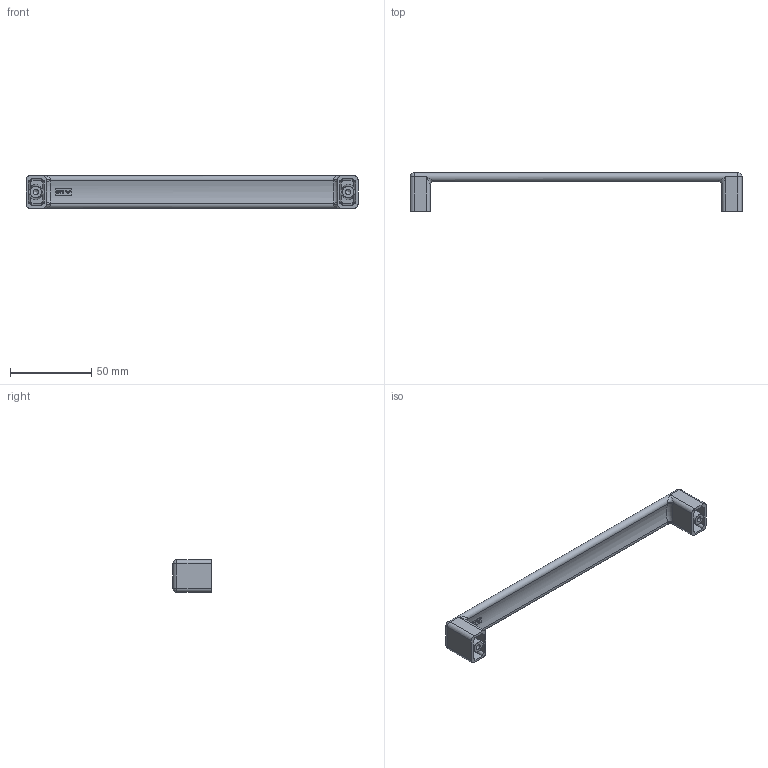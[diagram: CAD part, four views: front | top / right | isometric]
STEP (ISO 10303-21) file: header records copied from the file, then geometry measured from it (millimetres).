
FILE_DESCRIPTION(/* description */ ('Handle - DREVO'),/* implementation_level */ '2;1');
FILE_NAME(/* name */ 'D:\$Workingspace\Designs\Meblowka\uchwyty\UZ-DREVO_3\UZ-MODEN_192.stp',/* time_stamp */ '2018-11-28T12:34:04+01:00',/* author */ ('tomaszw'),/* organization */ (''),/* preprocessor_version */ 'ST-DEVELOPER v17',/* originating_system */ 'Autodesk Inventor 2019',/* authorisation */ '');
FILE_SCHEMA (('AUTOMOTIVE_DESIGN { 1 0 10303 214 3 1 1 }'));
Length unit declared in the file: millimetre
Products named in the file (1): UZ-DREVO_3-192
Bounding box: 204 x 23.5 x 20 mm (x, y, z)
Volume: 22962.7 mm3; surface area: 14701.7 mm2
Topology: 1 solids, 1 shells, 124 faces, 332 edges, 214 vertices
Faces by surface type: plane 67, cylinder 23, cone 14, bspline 10, torus 6, sphere 4
Full cylindrical faces by diameter (mm): 3.242 x2
Entity records: 4498 total; most frequent: CARTESIAN_POINT 1431, ORIENTED_EDGE 652, DIRECTION 624, EDGE_CURVE 326, AXIS2_PLACEMENT_3D 235, VERTEX_POINT 214, LINE 154, VECTOR 154
